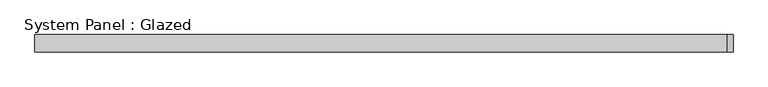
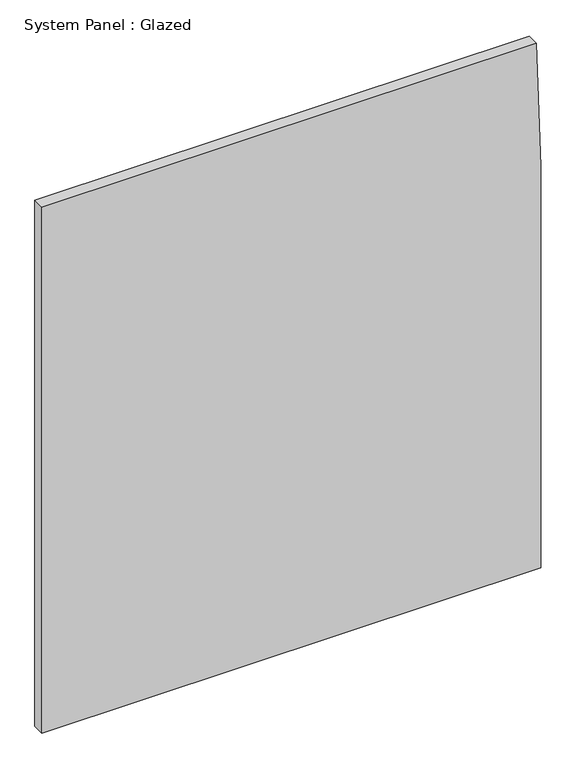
"""IFC4 building model written with IfcOpenShell, lengths in millimetres: plate geometry, System Panel : Glazed."""

from ifc_helpers import new_model, si_unit, point, frame, frame_2d, origin, place, context, project, spatial, polyline, circle_curve, trimmed, segment, composite_curve, outline, extrude, source, transform, mapped, element, save


def system_panel_glazed_15c3798a(model_context):
    return source(origin(), model_context, "Body", "SweptSolid", [
        extrude(outline(composite_curve([segment(polyline([(0.0, -518.432143), (0.0, 518.432143), (882.65, 518.432143)]), True, "CONTINUOUS"), segment(trimmed(circle_curve(frame_2d((882.65, -3380.467857)), 3898.9), [point((882.65, 518.432143))], [point((1155.7, 508.8591937))], False, "CARTESIAN"), True, "CONTINUOUS"), segment(polyline([(1155.7, 508.8591937), (1155.7, -518.432143), (0.0, -518.432143)]), True, "CONTINUOUS")], self_intersect=False)), frame((0.0, 19.05, 0.0), z_axis=(0.0, 1.0, 0.0), x_axis=(0.0, 0.0, 1.0)), (0.0, 0.0, 1.0), 25.4),
    ])


if __name__ == "__main__":
    model = new_model("IFC4")
    model_context = context("Model", 3, world=origin())
    ifc_project = project(units=[si_unit("LENGTHUNIT", "METRE", prefix="MILLI")], contexts=[model_context])
    site = spatial("IfcSite", under=ifc_project)
    building = spatial("IfcBuilding", under=site)
    placement = place(None, origin())
    system_panel_glazed_shape = system_panel_glazed_15c3798a(model_context)
    element("IfcPlate", 1, ObjectType="System Panel : Glazed", at=placement, inside=building, context=model_context, shape_type="MappedRepresentation", body=[
        mapped(system_panel_glazed_shape, transform((0.0, 0.0, 0.0), x_axis=(1.0, 0.0, 0.0), y_axis=(0.0, 1.0, 0.0), z_axis=(0.0, 0.0, 1.0))),
    ])
    save(model, "model.ifc")
